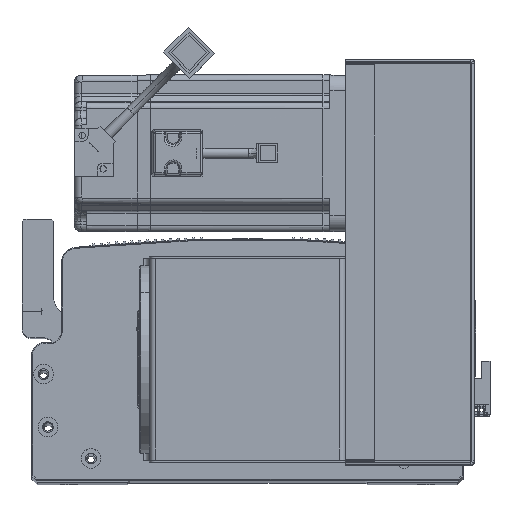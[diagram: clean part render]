
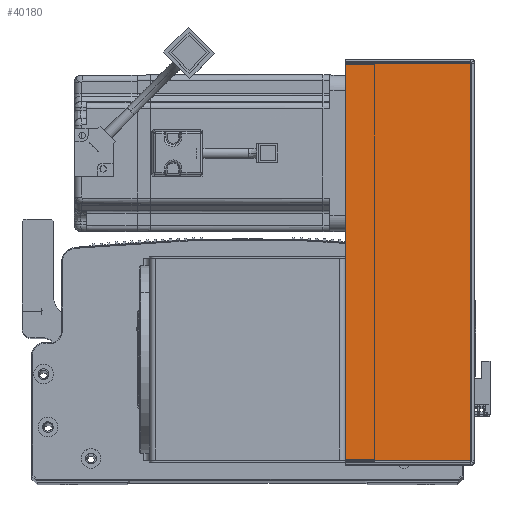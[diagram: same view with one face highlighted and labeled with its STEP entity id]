
A CAD part, top view. The second image highlights one B-rep face of the part: STEP entity #40180.
In plain terms, the highlighted planar face has unit normal (0, 0, 1) as drawn and (0, -1, 0) by its records, which use the part's own axes.
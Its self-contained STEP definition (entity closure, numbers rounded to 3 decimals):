
#3053 = VECTOR ( 'NONE', #35340, 1000. ) ;
#4561 = LINE ( 'NONE', #71944, #50274 ) ;
#5045 = CARTESIAN_POINT ( 'NONE',  ( 0., -1.5, -203.293 ) ) ;
#6421 = ORIENTED_EDGE ( 'NONE', *, *, #52830, .F. ) ;
#6506 = LINE ( 'NONE', #5045, #73504 ) ;
#7501 = FACE_OUTER_BOUND ( 'NONE', #38921, .T. ) ;
#11722 = VERTEX_POINT ( 'NONE', #62248 ) ;
#12612 = EDGE_CURVE ( 'NONE', #21963, #11722, #17267, .T. ) ;
#13560 = DIRECTION ( 'NONE',  ( 1., 0., 0. ) ) ;
#17267 = LINE ( 'NONE', #28826, #3053 ) ;
#21963 = VERTEX_POINT ( 'NONE', #68843 ) ;
#22956 = CARTESIAN_POINT ( 'NONE',  ( 0.737, -1.5, 0. ) ) ;
#26987 = ORIENTED_EDGE ( 'NONE', *, *, #79029, .F. ) ;
#28826 = CARTESIAN_POINT ( 'NONE',  ( 64.5, -1.5, 0. ) ) ;
#29981 = DIRECTION ( 'NONE',  ( 0., 0., 1. ) ) ;
#31079 = ORIENTED_EDGE ( 'NONE', *, *, #12612, .T. ) ;
#35340 = DIRECTION ( 'NONE',  ( 0., 0., 1. ) ) ;
#38229 = CARTESIAN_POINT ( 'NONE',  ( 0.737, -1.5, -203.293 ) ) ;
#38921 = EDGE_LOOP ( 'NONE', ( #6421, #69528, #31079, #26987 ) ) ;
#40180 = ADVANCED_FACE ( 'NONE', ( #7501 ), #68334, .F. ) ;
#47828 = LINE ( 'NONE', #22956, #51877 ) ;
#50274 = VECTOR ( 'NONE', #13560, 1000. ) ;
#50484 = DIRECTION ( 'NONE',  ( 1., 0., 0. ) ) ;
#51877 = VECTOR ( 'NONE', #29981, 1000. ) ;
#52830 = EDGE_CURVE ( 'NONE', #79007, #53496, #47828, .T. ) ;
#53496 = VERTEX_POINT ( 'NONE', #77584 ) ;
#61292 = DIRECTION ( 'NONE',  ( -1., 0., 0. ) ) ;
#62248 = CARTESIAN_POINT ( 'NONE',  ( 64.5, -1.5, -0.707 ) ) ;
#68334 = PLANE ( 'NONE',  #76049 ) ;
#68605 = DIRECTION ( 'NONE',  ( 0., 1., 0. ) ) ;
#68843 = CARTESIAN_POINT ( 'NONE',  ( 64.5, -1.5, -203.293 ) ) ;
#69528 = ORIENTED_EDGE ( 'NONE', *, *, #78793, .T. ) ;
#71944 = CARTESIAN_POINT ( 'NONE',  ( 0., -1.5, -0.707 ) ) ;
#73504 = VECTOR ( 'NONE', #50484, 1000. ) ;
#74003 = CARTESIAN_POINT ( 'NONE',  ( 0., -1.5, 0. ) ) ;
#76049 = AXIS2_PLACEMENT_3D ( 'NONE', #74003, #68605, #61292 ) ;
#77584 = CARTESIAN_POINT ( 'NONE',  ( 0.737, -1.5, -0.707 ) ) ;
#78793 = EDGE_CURVE ( 'NONE', #79007, #21963, #6506, .T. ) ;
#79007 = VERTEX_POINT ( 'NONE', #38229 ) ;
#79029 = EDGE_CURVE ( 'NONE', #53496, #11722, #4561, .T. ) ;
